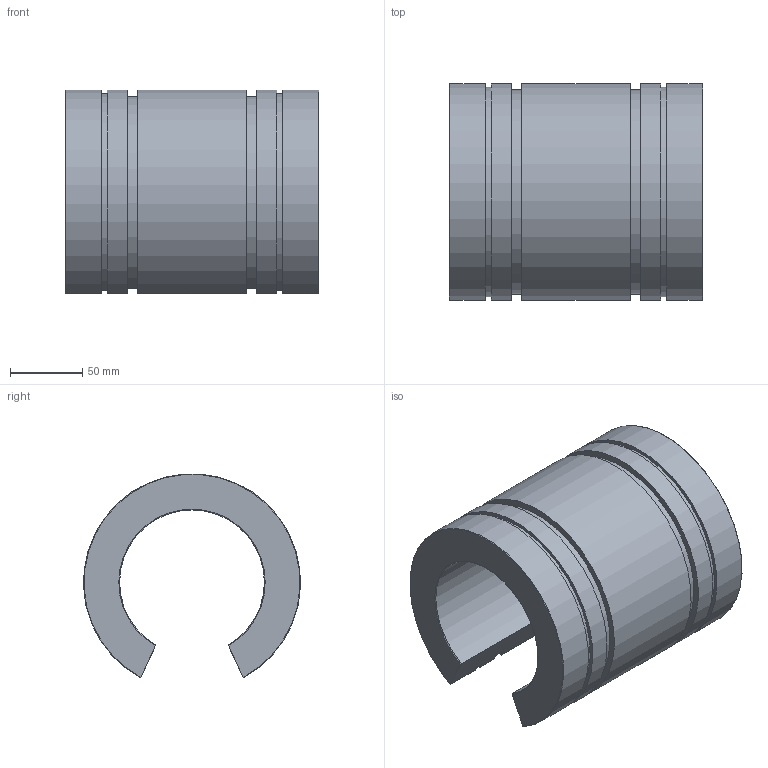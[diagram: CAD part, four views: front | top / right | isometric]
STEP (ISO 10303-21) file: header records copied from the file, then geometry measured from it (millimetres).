
FILE_DESCRIPTION(('STEP AP203'),'1');
FILE_NAME('//192.168.1.1/share/s-4 技術開発/s-4-4_CAD/s-4-4-3_見直し済み/PBC LINEAR修正済み/FJN/FJN_TOP/FJN100.step','2022-03-24T07:41:27',(' '),(' '),'Spatial InterOp 3D',' ',' ');
FILE_SCHEMA(('CONFIG_CONTROL_DESIGN'));
Length unit declared in the file: millimetre
Products named in the file (1): 1
Bounding box: 175 x 149.8 x 140.74 mm (x, y, z)
Volume: 1408924.6 mm3; surface area: 150353.5 mm2
Topology: 1 solids, 1 shells, 26 faces, 72 edges, 48 vertices
Faces by surface type: plane 12, cylinder 10, torus 4
Entity records: 908 total; most frequent: CARTESIAN_POINT 187, ORIENTED_EDGE 144, DIRECTION 142, EDGE_CURVE 72, AXIS2_PLACEMENT_3D 51, VERTEX_POINT 48, LINE 40, VECTOR 40
